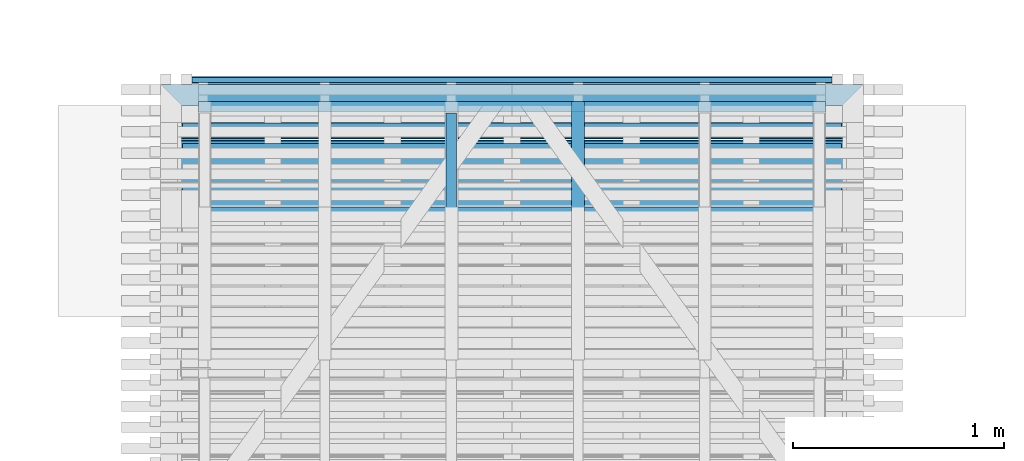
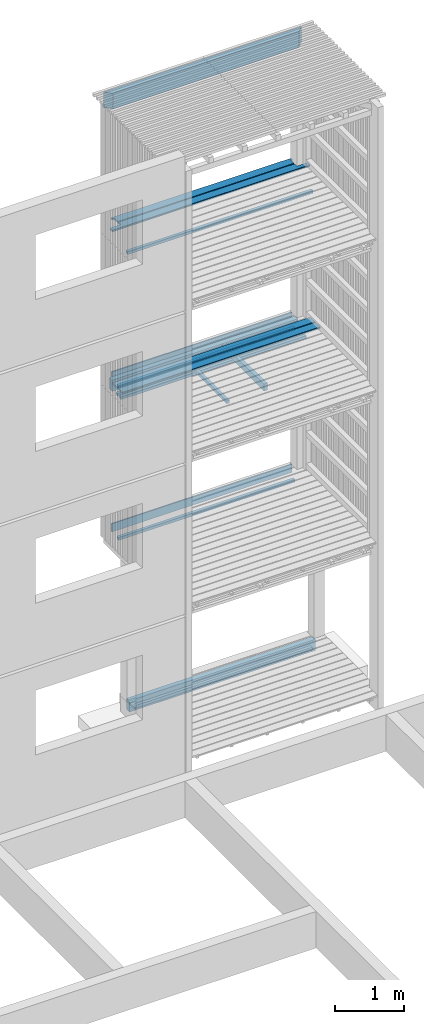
# One storey, part 126 of 182: 17 beams.
"""IFC2X3 building model written with IfcOpenShell, lengths in metres."""

from ifc_helpers import new_model, si_unit, frame, origin, place, context, project, spatial, faceted_brep, element, save


model = new_model("IFC2X3")

# Units and contexts
model_context = context("Model", 3, precision=1e-06, world=origin())
ifc_project = project(units=[si_unit("LENGTHUNIT", "METRE"), si_unit("PLANEANGLEUNIT", "RADIAN")], contexts=[model_context])

# Site, building, storey
site = spatial("IfcSite", under=ifc_project, CompositionType="ELEMENT")
building = spatial("IfcBuilding", under=site, CompositionType="ELEMENT")
storey = spatial("IfcBuildingStorey", under=building, Name="vs", CompositionType="ELEMENT", Elevation=-0.85)

# Beams
placement = place(None, origin())
beam_1_placement = place(placement, frame((55.00299999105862, 5.965077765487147, 5.304249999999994), z_axis=(0.0, 0.0, 1.0), x_axis=(0.0, 1.0, 0.0)))
element("IfcBeam", 1, at=beam_1_placement, inside=storey, Name="Solive", context=model_context, shape_type="Brep", body=[
    faceted_brep([(0.0, -0.030000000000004, -0.061849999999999), (1.225000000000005, -0.030000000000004, -0.061849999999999), (1.225000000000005, -0.030000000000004, 0.03735), (0.0, -0.030000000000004, 0.06185), (0.0, 0.029999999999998, 0.061850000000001), (0.0, 0.029999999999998, -0.061849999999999), (0.0, -0.030000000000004, -0.061849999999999), (0.0, -0.030000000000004, 0.06185), (0.0, -0.030000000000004, -0.061849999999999), (0.0, 0.029999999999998, -0.061849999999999), (1.225000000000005, 0.029999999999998, -0.061849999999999), (1.225000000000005, -0.030000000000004, -0.061849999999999), (1.225000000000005, 0.029999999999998, -0.061849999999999), (0.0, 0.029999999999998, -0.061849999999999), (0.0, 0.029999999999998, 0.061850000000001), (1.225000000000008, 0.029999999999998, 0.03735), (1.225000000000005, -0.030000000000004, 0.03735), (1.225000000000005, -0.030000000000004, -0.061849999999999), (1.225000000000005, 0.029999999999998, -0.061849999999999), (1.225000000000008, 0.029999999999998, 0.03735), (0.0, -0.030000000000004, 0.06185), (1.225000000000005, -0.030000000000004, 0.03735), (1.225000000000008, 0.029999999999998, 0.03735), (0.0, 0.029999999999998, 0.061850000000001)], [[[0, 1, 2, 3]], [[4, 5, 6, 7]], [[8, 9, 10, 11]], [[12, 13, 14, 15]], [[16, 17, 18, 19]], [[20, 21, 22, 23]]]),
])
beam_2_placement = place(placement, frame((54.40299999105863, 7.135077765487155, 5.217399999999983), z_axis=(0.0, 0.0, 1.0), x_axis=(0.0, -1.0, 0.0)))
element("IfcBeam", 2, at=beam_2_placement, inside=storey, Name="Calage", context=model_context, shape_type="Brep", body=[
    faceted_brep([(1.115000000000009, 0.024999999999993, 0.024999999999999), (1.115000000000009, -0.025000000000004, 0.024999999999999), (1.115000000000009, -0.025000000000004, -0.025), (1.115000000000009, 0.024999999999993, -0.025), (0.0, -0.025000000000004, -0.025), (0.0, -0.025000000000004, 0.024999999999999), (0.0, 0.024999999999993, 0.024999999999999), (0.0, 0.024999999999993, -0.025), (1.115000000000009, -0.025000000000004, 0.024999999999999), (1.115000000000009, 0.024999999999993, 0.024999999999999), (0.0, 0.024999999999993, 0.024999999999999), (0.0, -0.025000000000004, 0.024999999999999), (1.115000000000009, -0.025000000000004, -0.025), (1.115000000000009, -0.025000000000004, 0.024999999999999), (0.0, -0.025000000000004, 0.024999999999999), (0.0, -0.025000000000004, -0.025), (1.115000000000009, 0.024999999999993, -0.025), (1.115000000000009, -0.025000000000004, -0.025), (0.0, -0.025000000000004, -0.025), (0.0, 0.024999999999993, -0.025), (0.0, 0.024999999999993, 0.024999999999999), (1.115000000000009, 0.024999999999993, 0.024999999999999), (1.115000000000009, 0.024999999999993, -0.025), (0.0, 0.024999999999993, -0.025)], [[[0, 1, 2, 3]], [[4, 5, 6, 7]], [[8, 9, 10, 11]], [[12, 13, 14, 15]], [[16, 17, 18, 19]], [[20, 21, 22, 23]]]),
])
beam_3_placement = place(placement, frame((56.24999999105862, 6.965911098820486, 5.167399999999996), z_axis=(0.0, 0.0, 1.0), x_axis=(-1.0, 0.0, 0.0)))
element("IfcBeam", 3, at=beam_3_placement, inside=storey, Name="Bardage", context=model_context, shape_type="Brep", body=[
    faceted_brep([(3.120000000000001, 0.025000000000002, -0.025), (3.120000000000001, 0.025000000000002, 0.024999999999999), (3.120000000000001, -0.024999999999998, 0.024999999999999), (3.120000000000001, -0.024999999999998, -0.025), (-3e-15, -0.024999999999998, -0.025), (-3e-15, -0.024999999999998, 0.024999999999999), (-3e-15, 0.024999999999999, 0.024999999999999), (-3e-15, 0.024999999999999, -0.025), (-3e-15, 0.024999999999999, -0.025), (-3e-15, 0.024999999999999, 0.024999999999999), (3.120000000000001, 0.025000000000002, 0.024999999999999), (3.120000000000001, 0.025000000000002, -0.025), (-3e-15, 0.024999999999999, 0.024999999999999), (-3e-15, -0.024999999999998, 0.024999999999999), (3.120000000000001, -0.024999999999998, 0.024999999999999), (3.120000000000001, 0.025000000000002, 0.024999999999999), (-3e-15, -0.024999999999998, 0.024999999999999), (-3e-15, -0.024999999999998, -0.025), (3.120000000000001, -0.024999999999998, -0.025), (3.120000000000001, -0.024999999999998, 0.024999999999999), (-3e-15, -0.024999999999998, -0.025), (-3e-15, 0.024999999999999, -0.025), (3.120000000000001, 0.025000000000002, -0.025), (3.120000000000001, -0.024999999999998, -0.025)], [[[0, 1, 2, 3]], [[4, 5, 6, 7]], [[8, 9, 10, 11]], [[12, 13, 14, 15]], [[16, 17, 18, 19]], [[20, 21, 22, 23]]]),
])
beam_4_placement = place(placement, frame((56.25499999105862, 7.230077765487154, 5.239999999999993), z_axis=(0.0, 0.0, 1.0), x_axis=(-1.0, 0.0, 0.0)))
element("IfcBeam", 4, at=beam_4_placement, inside=storey, Name="Sommier", context=model_context, shape_type="Brep", body=[
    faceted_brep([(3.129999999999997, -0.039999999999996, 0.100000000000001), (3.129999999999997, 0.040000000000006, 0.100000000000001), (1e-15, 0.040000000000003, 0.100000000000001), (1e-15, -0.039999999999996, 0.100000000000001), (3.129999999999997, -0.039999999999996, -0.1), (3.129999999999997, -0.039999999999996, 0.100000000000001), (1e-15, -0.039999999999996, 0.100000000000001), (1e-15, -0.039999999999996, -0.1), (3.129999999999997, -0.039999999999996, 0.100000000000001), (3.129999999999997, -0.039999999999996, -0.1), (3.129999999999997, 0.040000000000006, -0.099999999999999), (3.129999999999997, 0.040000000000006, 0.100000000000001), (3.129999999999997, 0.040000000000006, -0.099999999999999), (3.129999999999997, -0.039999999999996, -0.1), (1e-15, -0.039999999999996, -0.1), (1e-15, 0.040000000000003, -0.1), (1e-15, 0.040000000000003, 0.100000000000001), (3.129999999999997, 0.040000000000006, 0.100000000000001), (3.129999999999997, 0.040000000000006, -0.099999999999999), (1e-15, 0.040000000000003, -0.1), (1e-15, -0.039999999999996, 0.100000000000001), (1e-15, 0.040000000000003, 0.100000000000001), (1e-15, 0.040000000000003, -0.1), (1e-15, -0.039999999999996, -0.1)], [[[0, 1, 2, 3]], [[4, 5, 6, 7]], [[8, 9, 10, 11]], [[12, 13, 14, 15]], [[16, 17, 18, 19]], [[20, 21, 22, 23]]]),
])
beam_5_placement = place(placement, frame((53.20499999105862, 7.165077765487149, 2.5174), z_axis=(0.0, 0.0, 1.0), x_axis=(1.0, 1e-15, 0.0)))
element("IfcBeam", 5, at=beam_5_placement, inside=storey, Name="Ligneul", context=model_context, shape_type="Brep", body=[
    faceted_brep([(2e-15, -0.024999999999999, 0.025), (2e-15, -0.024999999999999, -0.025), (2.970000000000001, -0.025000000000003, -0.025), (2.970000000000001, -0.025000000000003, 0.025), (2e-15, 0.025000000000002, 0.025), (2e-15, -0.024999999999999, 0.025), (2.970000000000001, -0.025000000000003, 0.025), (2.970000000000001, 0.025000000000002, 0.025), (2e-15, -0.024999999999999, 0.025), (2e-15, 0.025000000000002, 0.025), (2e-15, 0.025000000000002, -0.025), (2e-15, -0.024999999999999, -0.025), (2e-15, 0.025000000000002, -0.025), (2e-15, 0.025000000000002, 0.025), (2.970000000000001, 0.025000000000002, 0.025), (2.970000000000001, 0.025000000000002, -0.025), (2.970000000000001, -0.025000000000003, -0.025), (2e-15, -0.024999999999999, -0.025), (2e-15, 0.025000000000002, -0.025), (2.970000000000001, 0.025000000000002, -0.025), (2.970000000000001, -0.025000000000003, 0.025), (2.970000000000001, -0.025000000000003, -0.025), (2.970000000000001, 0.025000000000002, -0.025), (2.970000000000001, 0.025000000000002, 0.025)], [[[0, 1, 2, 3]], [[4, 5, 6, 7]], [[8, 9, 10, 11]], [[12, 13, 14, 15]], [[16, 17, 18, 19]], [[20, 21, 22, 23]]]),
])
beam_6_placement = place(placement, frame((53.17318180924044, 7.293577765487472, 5.342499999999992), z_axis=(0.0, 1.0, 0.0), x_axis=(1.0, 0.0, 0.0)))
element("IfcBeam", 6, at=beam_6_placement, inside=storey, Name="Caillebotis", context=model_context, shape_type="Brep", body=[
    faceted_brep([(-3e-15, -0.072500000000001, -0.013500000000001), (-3e-15, 0.072499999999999, -0.013500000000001), (3.033636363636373, 0.072499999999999, -0.013499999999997), (3.033636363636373, -0.072500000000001, -0.013499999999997), (-3e-15, -0.072500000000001, 0.008500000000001), (-3e-15, -0.072500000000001, -0.013500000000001), (3.033636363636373, -0.072500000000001, -0.013499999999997), (3.033636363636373, -0.072500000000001, 0.008500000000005), (-3e-15, -0.067500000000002, 0.0135), (-3e-15, -0.072500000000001, 0.008500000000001), (3.033636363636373, -0.072500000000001, 0.008500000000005), (3.033636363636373, -0.067500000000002, 0.013500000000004), (-3e-15, -0.072500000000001, -0.013500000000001), (-3e-15, -0.072500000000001, 0.008500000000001), (-3e-15, -0.067500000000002, 0.0135), (-3e-15, 0.0675, 0.0135), (-3e-15, 0.072499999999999, 0.008500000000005), (-3e-15, 0.072499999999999, -0.013500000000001), (-3e-15, 0.0675, 0.0135), (-3e-15, -0.067500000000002, 0.0135), (3.033636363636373, -0.067500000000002, 0.013500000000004), (3.033636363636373, 0.0675, 0.013500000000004), (-3e-15, 0.072499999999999, 0.008500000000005), (-3e-15, 0.0675, 0.0135), (3.033636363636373, 0.0675, 0.013500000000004), (3.033636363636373, 0.072499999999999, 0.008500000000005), (3.033636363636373, 0.072499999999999, -0.013499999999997), (-3e-15, 0.072499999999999, -0.013500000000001), (-3e-15, 0.072499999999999, 0.008500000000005), (3.033636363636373, 0.072499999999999, 0.008500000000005), (3.033636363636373, -0.072500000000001, 0.008500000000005), (3.033636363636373, -0.072500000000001, -0.013499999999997), (3.033636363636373, 0.072499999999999, -0.013499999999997), (3.033636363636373, 0.072499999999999, 0.008500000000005), (3.033636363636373, 0.0675, 0.013500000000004), (3.033636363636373, -0.067500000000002, 0.013500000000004)], [[[0, 1, 2, 3]], [[4, 5, 6, 7]], [[8, 9, 10, 11]], [[12, 13, 14, 15, 16, 17]], [[18, 19, 20, 21]], [[22, 23, 24, 25]], [[26, 27, 28, 29]], [[30, 31, 32, 33, 34, 35]]]),
])
beam_7_placement = place(placement, frame((53.20499999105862, 6.665077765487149, -0.164999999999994), z_axis=(0.0, 0.0, 1.0), x_axis=(1.0, 0.0, 0.0)))
element("IfcBeam", 7, at=beam_7_placement, inside=storey, Name="Ligneul", context=model_context, shape_type="Brep", body=[
    faceted_brep([(2e-15, -0.024999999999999, 0.025), (2e-15, -0.024999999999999, -0.025), (2.970000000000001, -0.024999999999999, -0.025), (2.970000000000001, -0.024999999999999, 0.025), (2e-15, 0.024999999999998, 0.025), (2e-15, -0.024999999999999, 0.025), (2.970000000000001, -0.024999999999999, 0.025), (2.970000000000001, 0.025000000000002, 0.025), (2e-15, -0.024999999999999, 0.025), (2e-15, 0.024999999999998, 0.025), (2e-15, 0.024999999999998, -0.025), (2e-15, -0.024999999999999, -0.025), (2e-15, 0.024999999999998, -0.025), (2e-15, 0.024999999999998, 0.025), (2.970000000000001, 0.025000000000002, 0.025), (2.970000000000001, 0.025000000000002, -0.025), (2.970000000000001, -0.024999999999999, -0.025), (2e-15, -0.024999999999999, -0.025), (2e-15, 0.024999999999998, -0.025), (2.970000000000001, 0.025000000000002, -0.025), (2.970000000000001, -0.024999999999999, 0.025), (2.970000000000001, -0.024999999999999, -0.025), (2.970000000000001, 0.025000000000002, -0.025), (2.970000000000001, 0.025000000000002, 0.025)], [[[0, 1, 2, 3]], [[4, 5, 6, 7]], [[8, 9, 10, 11]], [[12, 13, 14, 15]], [[16, 17, 18, 19]], [[20, 21, 22, 23]]]),
])
beam_8_placement = place(placement, frame((53.17318180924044, 7.293577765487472, 2.642499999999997), z_axis=(0.0, 1.0, 0.0), x_axis=(1.0, 0.0, 0.0)))
element("IfcBeam", 8, at=beam_8_placement, inside=storey, Name="Caillebotis", context=model_context, shape_type="Brep", body=[
    faceted_brep([(-3e-15, -0.0725, -0.013500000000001), (-3e-15, 0.0725, -0.013500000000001), (3.033636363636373, 0.0725, -0.013499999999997), (3.033636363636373, -0.0725, -0.013499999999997), (-3e-15, -0.0725, 0.008500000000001), (-3e-15, -0.0725, -0.013500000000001), (3.033636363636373, -0.0725, -0.013499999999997), (3.033636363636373, -0.0725, 0.008500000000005), (-3e-15, -0.067500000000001, 0.0135), (-3e-15, -0.0725, 0.008500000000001), (3.033636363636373, -0.0725, 0.008500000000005), (3.033636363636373, -0.067500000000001, 0.013500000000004), (-3e-15, -0.0725, -0.013500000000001), (-3e-15, -0.0725, 0.008500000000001), (-3e-15, -0.067500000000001, 0.0135), (-3e-15, 0.067500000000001, 0.0135), (-3e-15, 0.0725, 0.008500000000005), (-3e-15, 0.0725, -0.013500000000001), (-3e-15, 0.067500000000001, 0.0135), (-3e-15, -0.067500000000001, 0.0135), (3.033636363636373, -0.067500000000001, 0.013500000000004), (3.033636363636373, 0.067500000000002, 0.013500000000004), (-3e-15, 0.0725, 0.008500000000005), (-3e-15, 0.067500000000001, 0.0135), (3.033636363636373, 0.067500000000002, 0.013500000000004), (3.033636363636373, 0.0725, 0.008500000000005), (3.033636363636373, 0.0725, -0.013499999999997), (-3e-15, 0.0725, -0.013500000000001), (-3e-15, 0.0725, 0.008500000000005), (3.033636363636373, 0.0725, 0.008500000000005), (3.033636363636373, -0.0725, 0.008500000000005), (3.033636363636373, -0.0725, -0.013499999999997), (3.033636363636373, 0.0725, -0.013499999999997), (3.033636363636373, 0.0725, 0.008500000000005), (3.033636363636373, 0.067500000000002, 0.013500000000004), (3.033636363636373, -0.067500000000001, 0.013500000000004)], [[[0, 1, 2, 3]], [[4, 5, 6, 7]], [[8, 9, 10, 11]], [[12, 13, 14, 15, 16, 17]], [[18, 19, 20, 21]], [[22, 23, 24, 25]], [[26, 27, 28, 29]], [[30, 31, 32, 33, 34, 35]]]),
])
beam_9_placement = place(placement, frame((56.35499999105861, 6.784577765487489, 5.433499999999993), z_axis=(0.0, 0.0, 1.0), x_axis=(-1.0, -1e-14, 0.0)))
element("IfcBeam", 9, at=beam_9_placement, inside=storey, Name="Caillebotis", context=model_context, shape_type="Brep", body=[
    faceted_brep([(3.329999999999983, -0.072500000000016, -0.0135), (3.329999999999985, 0.072499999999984, -0.0135), (3.329999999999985, 0.072499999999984, 0.0085), (3.329999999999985, 0.067499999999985, 0.0135), (3.329999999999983, -0.067500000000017, 0.0135), (3.329999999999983, -0.072500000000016, 0.008500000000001), (-1.5e-14, -0.072499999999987, 0.008500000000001), (-1.5e-14, -0.067499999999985, 0.0135), (-1.4e-14, 0.067500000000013, 0.0135), (-1.4e-14, 0.072500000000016, 0.0085), (-1.4e-14, 0.072500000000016, -0.0135), (-1.5e-14, -0.072499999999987, -0.0135), (3.329999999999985, 0.072499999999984, 0.0085), (3.329999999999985, 0.072499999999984, -0.0135), (-1.4e-14, 0.072500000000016, -0.0135), (-1.4e-14, 0.072500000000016, 0.0085), (3.329999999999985, 0.067499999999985, 0.0135), (3.329999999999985, 0.072499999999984, 0.0085), (-1.4e-14, 0.072500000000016, 0.0085), (-1.4e-14, 0.067500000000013, 0.0135), (3.329999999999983, -0.067500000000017, 0.0135), (3.329999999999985, 0.067499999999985, 0.0135), (-1.4e-14, 0.067500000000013, 0.0135), (-1.5e-14, -0.067499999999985, 0.0135), (3.329999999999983, -0.072500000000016, 0.008500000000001), (3.329999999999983, -0.067500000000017, 0.0135), (-1.5e-14, -0.067499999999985, 0.0135), (-1.5e-14, -0.072499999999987, 0.008500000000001), (3.329999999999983, -0.072500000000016, -0.0135), (3.329999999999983, -0.072500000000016, 0.008500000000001), (-1.5e-14, -0.072499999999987, 0.008500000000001), (-1.5e-14, -0.072499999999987, -0.0135), (-1.4e-14, 0.072500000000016, -0.0135), (3.329999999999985, 0.072499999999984, -0.0135), (3.329999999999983, -0.072500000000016, -0.0135), (-1.5e-14, -0.072499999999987, -0.0135)], [[[0, 1, 2, 3, 4, 5]], [[6, 7, 8, 9, 10, 11]], [[12, 13, 14, 15]], [[16, 17, 18, 19]], [[20, 21, 22, 23]], [[24, 25, 26, 27]], [[28, 29, 30, 31]], [[32, 33, 34, 35]]]),
])
beam_10_placement = place(placement, frame((56.206818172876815, 7.234577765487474, 8.13349999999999), z_axis=(0.0, 0.0, 1.0), x_axis=(-1.0, 0.0, 0.0)))
element("IfcBeam", 10, at=beam_10_placement, inside=storey, Name="Caillebotis", context=model_context, shape_type="Brep", body=[
    faceted_brep([(3.033636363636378, -0.072499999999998, -0.013500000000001), (3.033636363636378, -0.072499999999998, 0.0085), (2e-15, -0.072499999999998, 0.0085), (2e-15, -0.072499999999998, -0.013500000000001), (2.996818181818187, 0.072500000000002, 0.008499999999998), (2.996818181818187, 0.067500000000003, 0.013499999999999), (2.996818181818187, -0.040499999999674, 0.013499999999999), (2.996818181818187, -0.040499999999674, -0.013500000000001), (2.996818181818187, 0.072500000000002, -0.013500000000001), (0.036818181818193, -0.040499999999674, -0.013500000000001), (0.036818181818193, 0.072499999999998, -0.013500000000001), (2.996818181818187, 0.072500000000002, -0.013500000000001), (2.996818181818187, -0.040499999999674, -0.013500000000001), (3.033636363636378, -0.040499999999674, -0.013500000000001), (3.033636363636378, -0.072499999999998, -0.013500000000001), (2e-15, -0.072499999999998, -0.013500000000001), (2e-15, -0.040499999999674, -0.013500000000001), (3.033636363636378, -0.072499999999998, 0.0085), (3.033636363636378, -0.072499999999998, -0.013500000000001), (3.033636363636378, -0.040499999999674, -0.013500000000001), (3.033636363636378, -0.040499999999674, 0.013499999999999), (3.033636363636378, -0.067500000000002, 0.013499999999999), (3.033636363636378, -0.040499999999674, 0.013499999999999), (3.033636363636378, -0.040499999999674, -0.013500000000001), (2.996818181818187, -0.040499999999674, -0.013500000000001), (2.996818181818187, -0.040499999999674, 0.013499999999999), (2.996818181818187, 0.072500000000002, 0.008499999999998), (2.996818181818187, 0.072500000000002, -0.013500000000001), (0.036818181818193, 0.072499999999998, -0.013500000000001), (0.036818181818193, 0.072499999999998, 0.0085), (2.996818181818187, 0.067500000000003, 0.013499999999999), (2.996818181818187, 0.072500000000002, 0.008499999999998), (0.036818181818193, 0.072499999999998, 0.0085), (0.036818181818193, 0.067500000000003, 0.013499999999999), (0.036818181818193, 0.067500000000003, 0.013499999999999), (0.036818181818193, 0.072499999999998, 0.0085), (0.036818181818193, 0.072499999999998, -0.013500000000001), (0.036818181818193, -0.040499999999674, -0.013500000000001), (0.036818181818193, -0.040499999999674, 0.013499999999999), (0.036818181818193, -0.040499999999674, 0.013499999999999), (0.036818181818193, -0.040499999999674, -0.013500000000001), (2e-15, -0.040499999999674, -0.013500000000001), (2e-15, -0.040499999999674, 0.013499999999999), (3.033636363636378, -0.067500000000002, 0.013499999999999), (3.033636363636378, -0.040499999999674, 0.013499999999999), (2.996818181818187, -0.040499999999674, 0.013499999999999), (2.996818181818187, 0.067500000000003, 0.013499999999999), (0.036818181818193, 0.067500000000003, 0.013499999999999), (0.036818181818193, -0.040499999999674, 0.013499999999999), (2e-15, -0.040499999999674, 0.013499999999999), (2e-15, -0.067500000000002, 0.013499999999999), (2e-15, -0.072499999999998, 0.0085), (3.033636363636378, -0.072499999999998, 0.0085), (3.033636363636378, -0.067500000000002, 0.013499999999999), (2e-15, -0.067500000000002, 0.013499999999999), (2e-15, -0.072499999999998, -0.013500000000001), (2e-15, -0.072499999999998, 0.0085), (2e-15, -0.067500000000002, 0.013499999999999), (2e-15, -0.040499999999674, 0.013499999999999), (2e-15, -0.040499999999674, -0.013500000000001)], [[[0, 1, 2, 3]], [[4, 5, 6, 7, 8]], [[9, 10, 11, 12, 13, 14, 15, 16]], [[17, 18, 19, 20, 21]], [[22, 23, 24, 25]], [[26, 27, 28, 29]], [[30, 31, 32, 33]], [[34, 35, 36, 37, 38]], [[39, 40, 41, 42]], [[43, 44, 45, 46, 47, 48, 49, 50]], [[51, 52, 53, 54]], [[55, 56, 57, 58, 59]]]),
])
beam_11_placement = place(placement, frame((56.35499999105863, 6.934577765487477, 5.433499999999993), z_axis=(0.0, 0.0, 1.0), x_axis=(-1.0, -1e-15, 0.0)))
element("IfcBeam", 11, at=beam_11_placement, inside=storey, Name="Caillebotis", context=model_context, shape_type="Brep", body=[
    faceted_brep([(3.329999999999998, -0.072500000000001, -0.0135), (3.329999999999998, 0.072500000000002, -0.0135), (3.329999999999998, 0.072500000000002, 0.008500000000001), (3.329999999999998, 0.067499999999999, 0.0135), (3.329999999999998, -0.067499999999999, 0.0135), (3.329999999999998, -0.072500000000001, 0.008500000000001), (0.0, -0.072499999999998, 0.008500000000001), (0.0, -0.067499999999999, 0.0135), (0.0, 0.067500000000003, 0.0135), (0.0, 0.072500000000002, 0.008500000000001), (0.0, 0.072500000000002, -0.0135), (0.0, -0.072499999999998, -0.0135), (3.329999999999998, 0.072500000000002, 0.008500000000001), (3.329999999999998, 0.072500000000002, -0.0135), (0.0, 0.072500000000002, -0.0135), (0.0, 0.072500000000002, 0.008500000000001), (3.329999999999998, 0.067499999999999, 0.0135), (3.329999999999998, 0.072500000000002, 0.008500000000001), (0.0, 0.072500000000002, 0.008500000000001), (0.0, 0.067500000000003, 0.0135), (3.329999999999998, -0.067499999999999, 0.0135), (3.329999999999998, 0.067499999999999, 0.0135), (0.0, 0.067500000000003, 0.0135), (0.0, -0.067499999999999, 0.0135), (3.329999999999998, -0.072500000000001, 0.008500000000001), (3.329999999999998, -0.067499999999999, 0.0135), (0.0, -0.067499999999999, 0.0135), (0.0, -0.072499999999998, 0.008500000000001), (3.329999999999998, -0.072500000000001, -0.0135), (3.329999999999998, -0.072500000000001, 0.008500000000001), (0.0, -0.072499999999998, 0.008500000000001), (0.0, -0.072499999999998, -0.0135), (0.0, 0.072500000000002, -0.0135), (3.329999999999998, 0.072500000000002, -0.0135), (3.329999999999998, -0.072500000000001, -0.0135), (0.0, -0.072499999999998, -0.0135)], [[[0, 1, 2, 3, 4, 5]], [[6, 7, 8, 9, 10, 11]], [[12, 13, 14, 15]], [[16, 17, 18, 19]], [[20, 21, 22, 23]], [[24, 25, 26, 27]], [[28, 29, 30, 31]], [[32, 33, 34, 35]]]),
])
beam_12_placement = place(placement, frame((53.20499999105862, 7.165077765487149, 5.217399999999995), z_axis=(0.0, 0.0, 1.0), x_axis=(1.0, 1e-15, 0.0)))
element("IfcBeam", 12, at=beam_12_placement, inside=storey, Name="Ligneul", context=model_context, shape_type="Brep", body=[
    faceted_brep([(2e-15, -0.024999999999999, -0.024999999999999), (2.970000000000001, -0.025000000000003, -0.024999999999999), (2.970000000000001, -0.025000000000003, 0.025), (2e-15, -0.024999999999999, 0.025), (2e-15, -0.024999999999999, 0.025), (2.970000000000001, -0.025000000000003, 0.025), (2.970000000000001, 0.024999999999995, 0.025), (2e-15, 0.025000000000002, 0.025), (2e-15, 0.025000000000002, -0.024999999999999), (2e-15, -0.024999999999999, -0.024999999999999), (2e-15, -0.024999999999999, 0.025), (2e-15, 0.025000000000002, 0.025), (2e-15, 0.025000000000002, -0.024999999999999), (2e-15, 0.025000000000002, 0.025), (2.970000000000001, 0.024999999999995, 0.025), (2.970000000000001, 0.025000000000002, -0.024999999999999), (2e-15, -0.024999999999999, -0.024999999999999), (2e-15, 0.025000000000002, -0.024999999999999), (2.970000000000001, 0.025000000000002, -0.024999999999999), (2.970000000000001, -0.025000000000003, -0.024999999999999), (2.970000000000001, 0.025000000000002, -0.024999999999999), (2.970000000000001, 0.024999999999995, 0.025), (2.970000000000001, -0.025000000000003, 0.025), (2.970000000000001, -0.025000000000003, -0.024999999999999)], [[[0, 1, 2, 3]], [[4, 5, 6, 7]], [[8, 9, 10, 11]], [[12, 13, 14, 15]], [[16, 17, 18, 19]], [[20, 21, 22, 23]]]),
])
beam_13_placement = place(placement, frame((56.35499999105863, 7.084577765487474, 8.13349999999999), z_axis=(0.0, 0.0, 1.0), x_axis=(-1.0, 0.0, 0.0)))
element("IfcBeam", 13, at=beam_13_placement, inside=storey, Name="Caillebotis", context=model_context, shape_type="Brep", body=[
    faceted_brep([(3.144999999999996, -0.000499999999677, 0.013499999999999), (3.144999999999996, -0.000499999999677, -0.013500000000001), (3.329999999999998, -0.000499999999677, -0.013500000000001), (3.329999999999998, -0.000499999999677, 0.013499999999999), (3.329999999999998, 0.072500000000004, -0.013500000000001), (3.329999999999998, 0.072500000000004, 0.0085), (3.329999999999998, 0.067500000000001, 0.013499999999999), (3.329999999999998, -0.000499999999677, 0.013499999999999), (3.329999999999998, -0.000499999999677, -0.013500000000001), (3.144999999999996, -0.072499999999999, 0.0085), (3.144999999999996, -0.072499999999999, -0.013500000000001), (3.144999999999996, -0.000499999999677, -0.013500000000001), (3.144999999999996, -0.000499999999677, 0.013499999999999), (3.144999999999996, -0.067499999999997, 0.013499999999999), (3.144999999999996, -0.072499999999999, -0.013500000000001), (3.144999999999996, -0.072499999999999, 0.0085), (0.185000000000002, -0.072499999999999, 0.008500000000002), (0.185000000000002, -0.072499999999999, -0.013500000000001), (3.144999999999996, -0.072499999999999, 0.0085), (3.144999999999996, -0.067499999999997, 0.013499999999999), (0.185000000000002, -0.0675, 0.013499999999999), (0.185000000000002, -0.072499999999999, 0.008500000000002), (0.185000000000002, -0.072499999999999, -0.013500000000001), (0.185000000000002, -0.072499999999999, 0.008500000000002), (0.185000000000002, -0.0675, 0.013499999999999), (0.185000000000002, -0.000499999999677, 0.013499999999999), (0.185000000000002, -0.000499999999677, -0.013500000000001), (0.0, -0.000499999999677, 0.013499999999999), (0.0, 0.067500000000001, 0.013499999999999), (0.0, 0.0725, 0.0085), (0.0, 0.0725, -0.013500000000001), (0.0, -0.000499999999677, -0.013500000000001), (3.329999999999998, 0.072500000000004, 0.0085), (3.329999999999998, 0.072500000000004, -0.013500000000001), (0.0, 0.0725, -0.013500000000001), (0.0, 0.0725, 0.0085), (3.329999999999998, 0.067500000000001, 0.013499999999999), (3.329999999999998, 0.072500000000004, 0.0085), (0.0, 0.0725, 0.0085), (0.0, 0.067500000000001, 0.013499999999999), (3.144999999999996, -0.067499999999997, 0.013499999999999), (3.144999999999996, -0.000499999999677, 0.013499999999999), (3.329999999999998, -0.000499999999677, 0.013499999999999), (3.329999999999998, 0.067500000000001, 0.013499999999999), (0.0, 0.067500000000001, 0.013499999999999), (0.0, -0.000499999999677, 0.013499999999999), (0.185000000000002, -0.000499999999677, 0.013499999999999), (0.185000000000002, -0.0675, 0.013499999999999), (0.185000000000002, -0.000499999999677, -0.013500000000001), (0.185000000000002, -0.000499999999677, 0.013499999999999), (0.0, -0.000499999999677, 0.013499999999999), (0.0, -0.000499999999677, -0.013500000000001), (0.0, -0.000499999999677, -0.013500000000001), (0.0, 0.0725, -0.013500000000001), (3.329999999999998, 0.072500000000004, -0.013500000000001), (3.329999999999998, -0.000499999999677, -0.013500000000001), (3.144999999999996, -0.000499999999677, -0.013500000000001), (3.144999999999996, -0.072499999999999, -0.013500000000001), (0.185000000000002, -0.072499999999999, -0.013500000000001), (0.185000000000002, -0.000499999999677, -0.013500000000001)], [[[0, 1, 2, 3]], [[4, 5, 6, 7, 8]], [[9, 10, 11, 12, 13]], [[14, 15, 16, 17]], [[18, 19, 20, 21]], [[22, 23, 24, 25, 26]], [[27, 28, 29, 30, 31]], [[32, 33, 34, 35]], [[36, 37, 38, 39]], [[40, 41, 42, 43, 44, 45, 46, 47]], [[48, 49, 50, 51]], [[52, 53, 54, 55, 56, 57, 58, 59]]]),
])
beam_14_placement = place(placement, frame((56.25499999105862, 6.73007776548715, -0.159999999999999), z_axis=(0.0, 0.0, 1.0), x_axis=(-1.0, 0.0, 0.0)))
element("IfcBeam", 14, at=beam_14_placement, inside=storey, Name="Sommier", context=model_context, shape_type="Brep", body=[
    faceted_brep([(3.129999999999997, 0.040000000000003, -0.1), (3.129999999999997, -0.039999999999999, -0.1), (1e-15, -0.040000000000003, -0.1), (1e-15, 0.039999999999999, -0.1), (3.129999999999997, 0.040000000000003, 0.1), (3.129999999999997, 0.040000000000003, -0.1), (1e-15, 0.039999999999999, -0.1), (1e-15, 0.039999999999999, 0.1), (3.129999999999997, 0.040000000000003, -0.1), (3.129999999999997, 0.040000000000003, 0.1), (3.129999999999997, -0.039999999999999, 0.1), (3.129999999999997, -0.039999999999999, -0.1), (3.129999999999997, -0.039999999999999, 0.1), (3.129999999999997, 0.040000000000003, 0.1), (1e-15, 0.039999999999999, 0.1), (1e-15, -0.040000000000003, 0.1), (1e-15, -0.040000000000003, -0.1), (3.129999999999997, -0.039999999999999, -0.1), (3.129999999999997, -0.039999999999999, 0.1), (1e-15, -0.040000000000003, 0.1), (1e-15, 0.039999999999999, -0.1), (1e-15, -0.040000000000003, -0.1), (1e-15, -0.040000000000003, 0.1), (1e-15, 0.039999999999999, 0.1)], [[[0, 1, 2, 3]], [[4, 5, 6, 7]], [[8, 9, 10, 11]], [[12, 13, 14, 15]], [[16, 17, 18, 19]], [[20, 21, 22, 23]]]),
])
beam_15_placement = place(placement, frame((56.24999999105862, 7.06299443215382, 5.167399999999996), z_axis=(0.0, 0.0, 1.0), x_axis=(-1.0, -1e-15, 0.0)))
element("IfcBeam", 15, at=beam_15_placement, inside=storey, Name="Bardage", context=model_context, shape_type="Brep", body=[
    faceted_brep([(3.120000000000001, 0.024999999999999, -0.025), (3.120000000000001, 0.024999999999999, 0.025), (3.120000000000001, -0.025000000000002, 0.025), (3.120000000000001, -0.025000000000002, -0.025), (-3e-15, -0.024999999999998, -0.025), (-3e-15, -0.024999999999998, 0.025), (-3e-15, 0.025000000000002, 0.025), (-3e-15, 0.025000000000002, -0.025), (-3e-15, 0.025000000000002, -0.025), (-3e-15, 0.025000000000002, 0.025), (3.120000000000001, 0.024999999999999, 0.025), (3.120000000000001, 0.024999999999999, -0.025), (-3e-15, 0.025000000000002, 0.025), (-3e-15, -0.024999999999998, 0.025), (3.120000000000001, -0.025000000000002, 0.025), (3.120000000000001, 0.024999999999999, 0.025), (-3e-15, -0.024999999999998, 0.025), (-3e-15, -0.024999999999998, -0.025), (3.120000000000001, -0.025000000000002, -0.025), (3.120000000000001, -0.025000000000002, 0.025), (-3e-15, -0.024999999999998, -0.025), (-3e-15, 0.025000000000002, -0.025), (3.120000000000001, 0.024999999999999, -0.025), (3.120000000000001, -0.025000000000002, -0.025)], [[[0, 1, 2, 3]], [[4, 5, 6, 7]], [[8, 9, 10, 11]], [[12, 13, 14, 15]], [[16, 17, 18, 19]], [[20, 21, 22, 23]]]),
])
beam_16_placement = place(placement, frame((56.24999999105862, 6.771744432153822, 7.86739999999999), z_axis=(0.0, 0.0, 1.0), x_axis=(-1.0, 0.0, 0.0)))
element("IfcBeam", 16, at=beam_16_placement, inside=storey, Name="Bardage", context=model_context, shape_type="Brep", body=[
    faceted_brep([(-3e-15, -0.024999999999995, 0.025000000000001), (-3e-15, 0.025000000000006, 0.025000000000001), (-3e-15, 0.025000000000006, -0.024999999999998), (-3e-15, -0.024999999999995, -0.024999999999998), (3.119999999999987, 0.025000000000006, 0.025000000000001), (3.120000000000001, -0.024999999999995, 0.025000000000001), (3.120000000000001, -0.024999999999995, -0.024999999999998), (3.119999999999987, 0.025000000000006, -0.024999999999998), (3.120000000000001, -0.024999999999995, 0.025000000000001), (3.119999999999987, 0.025000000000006, 0.025000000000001), (-3e-15, 0.025000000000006, 0.025000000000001), (-3e-15, -0.024999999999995, 0.025000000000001), (-3e-15, 0.025000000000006, 0.025000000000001), (3.119999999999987, 0.025000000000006, 0.025000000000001), (3.119999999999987, 0.025000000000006, -0.024999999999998), (-3e-15, 0.025000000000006, -0.024999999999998), (-3e-15, -0.024999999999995, -0.024999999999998), (-3e-15, 0.025000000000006, -0.024999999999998), (3.119999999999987, 0.025000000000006, -0.024999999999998), (3.120000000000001, -0.024999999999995, -0.024999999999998), (3.120000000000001, -0.024999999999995, -0.024999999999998), (3.120000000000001, -0.024999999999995, 0.025000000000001), (-3e-15, -0.024999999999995, 0.025000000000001), (-3e-15, -0.024999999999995, -0.024999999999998)], [[[0, 1, 2, 3]], [[4, 5, 6, 7]], [[8, 9, 10, 11]], [[12, 13, 14, 15]], [[16, 17, 18, 19]], [[20, 21, 22, 23]]]),
])
beam_17_placement = place(placement, frame((53.02499999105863, 7.220077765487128, 10.314999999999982), z_axis=(0.0, 0.0, 1.0), x_axis=(1.0, 7e-15, 0.0)))
element("IfcBeam", 17, at=beam_17_placement, inside=storey, Name="Sommier", context=model_context, shape_type="Brep", body=[
    faceted_brep([(3.33, 0.049999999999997, -0.140000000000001), (3.230000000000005, -0.049999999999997, -0.140000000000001), (0.099999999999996, -0.049999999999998, -0.140000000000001), (2e-15, 0.049999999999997, -0.140000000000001), (0.099999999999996, -0.049999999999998, -0.140000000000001), (3.230000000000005, -0.049999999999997, -0.140000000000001), (3.230000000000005, -0.049999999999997, 0.140000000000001), (0.099999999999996, -0.049999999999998, 0.140000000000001), (3.230000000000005, -0.049999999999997, -0.140000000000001), (3.33, 0.049999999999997, -0.140000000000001), (3.33, 0.049999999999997, 0.140000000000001), (3.230000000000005, -0.049999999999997, 0.140000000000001), (3.33, 0.049999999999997, 0.140000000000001), (3.33, 0.049999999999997, -0.140000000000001), (2e-15, 0.049999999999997, -0.140000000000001), (2e-15, 0.049999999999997, 0.140000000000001), (0.099999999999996, -0.049999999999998, 0.140000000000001), (3.230000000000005, -0.049999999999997, 0.140000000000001), (3.33, 0.049999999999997, 0.140000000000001), (2e-15, 0.049999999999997, 0.140000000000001), (0.099999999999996, -0.049999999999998, -0.140000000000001), (0.099999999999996, -0.049999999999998, 0.140000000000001), (2e-15, 0.049999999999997, 0.140000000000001), (2e-15, 0.049999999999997, -0.140000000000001)], [[[0, 1, 2, 3]], [[4, 5, 6, 7]], [[8, 9, 10, 11]], [[12, 13, 14, 15]], [[16, 17, 18, 19]], [[20, 21, 22, 23]]]),
])

save(model, "model.ifc")
